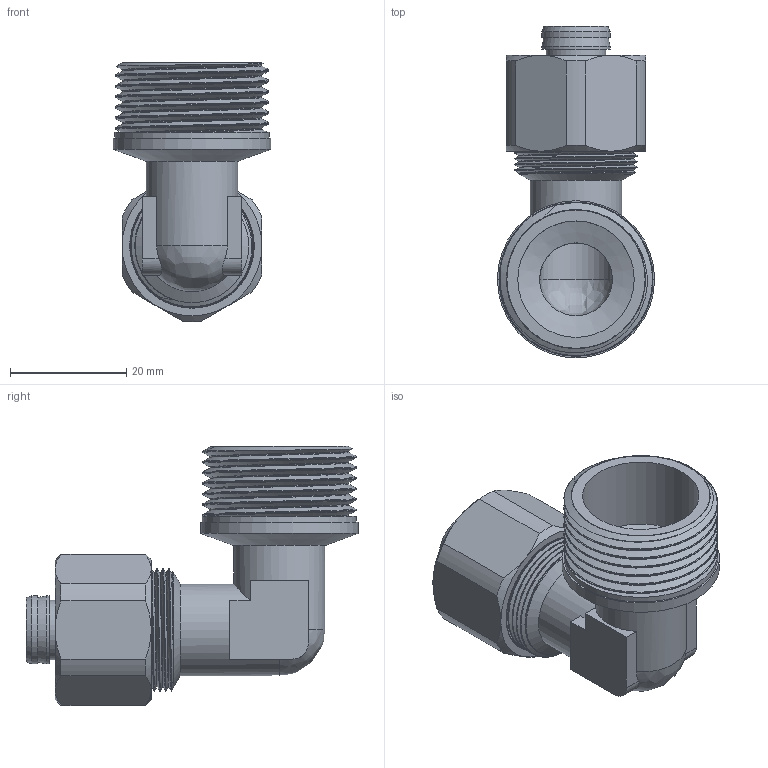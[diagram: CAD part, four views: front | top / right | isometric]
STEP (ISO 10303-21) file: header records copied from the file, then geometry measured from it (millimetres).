
FILE_DESCRIPTION(/* description */ (''),/* implementation_level */ '2;1');
FILE_NAME(/* name */ 'C:\Users\Doom\Desktop\Фадотех\Обжим\RFU22 16X34M 30.03.2020\RFU22 16X34M 30.03.2020.stp',/* time_stamp */ '2022-06-01T16:48:08+03:00',/* author */ ('Doom'),/* organization */ (''),/* preprocessor_version */ 'ST-DEVELOPER v18',/* originating_system */ 'Autodesk Inventor 2020',/* authorisation */ '');
FILE_SCHEMA (('AUTOMOTIVE_DESIGN { 1 0 10303 214 3 1 1 }','TECHNICAL_DATA_PACKAGING'));
Length unit declared in the file: millimetre
Products named in the file (5): RFU22 16X34M 30.03.2020; RFU22 16X34M 30.03.2020_1; Olive 16 15.02.2020; FADO MC Socket-16 15.02.2020; FADO MC Nut-16 15.02.2020
Assembly tree (4 placements, depth 2):
  RFU22 16X34M 30.03.2020
    RFU22 16X34M 30.03.2020_1
    Olive 16 15.02.2020
    FADO MC Socket-16 15.02.2020
    FADO MC Nut-16 15.02.2020
Bounding box: 27 x 57 x 44.49 mm (x, y, z)
Volume: 12862.5 mm3; surface area: 20374.8 mm2
Topology: 7 solids, 7 shells, 556 faces, 1523 edges, 1022 vertices
Faces by surface type: bspline 258, plane 174, cylinder 95, cone 29
Full cylindrical faces by diameter (mm): 8.5 x1, 10.2 x2, 11.7 x4, 12.5 x2, 12.6 x1, 14.7 x2, 15.5 x1, 15.7 x2, 16.5 x1, 19 x1, 19.5 x1, 19.517 x2, 19.867 x12, 20 x1, 21 x8, 21.35 x2, 23.75 x2, 26.44 x6, 27 x1
Entity records: 36412 total; most frequent: CARTESIAN_POINT 23849, ORIENTED_EDGE 3034, DIRECTION 1783, EDGE_CURVE 1517, VERTEX_POINT 1020, EDGE_LOOP 613, LINE 607, VECTOR 607
